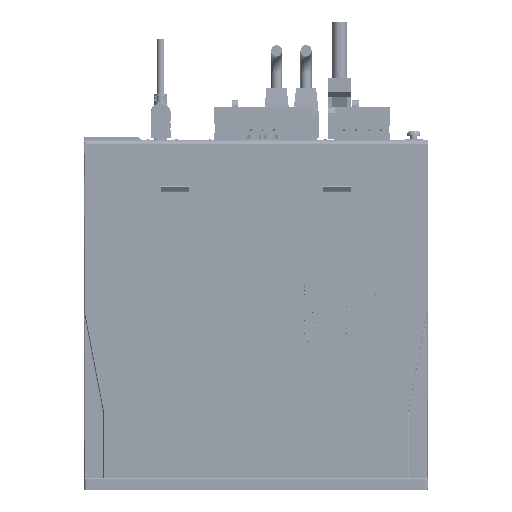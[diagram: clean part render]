
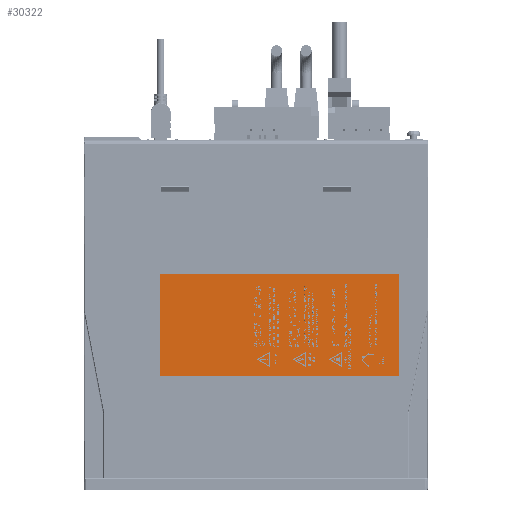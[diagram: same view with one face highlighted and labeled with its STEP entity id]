
A CAD part, left-side view. The second image highlights one B-rep face of the part: STEP entity #30322.
In plain terms, the highlighted planar face has unit normal (-1, 0, 0).
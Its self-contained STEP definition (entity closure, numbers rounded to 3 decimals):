
#30322=ADVANCED_FACE('',(#55343),#414931,.T.);
#55343=FACE_OUTER_BOUND('',#82129,.T.);
#82129=EDGE_LOOP('',(#211232,#211233,#211234,#211235,#211236,#211237));
#211232=ORIENTED_EDGE('',*,*,#276751,.F.);
#211233=ORIENTED_EDGE('',*,*,#278150,.T.);
#211234=ORIENTED_EDGE('',*,*,#278151,.F.);
#211235=ORIENTED_EDGE('',*,*,#278152,.F.);
#211236=ORIENTED_EDGE('',*,*,#276746,.F.);
#211237=ORIENTED_EDGE('',*,*,#276745,.T.);
#276745=EDGE_CURVE('',#390875,#390876,#283606,.T.);
#276746=EDGE_CURVE('',#390875,#390877,#346379,.T.);
#276751=EDGE_CURVE('',#390880,#390876,#346384,.T.);
#278150=EDGE_CURVE('',#390880,#390879,#283755,.T.);
#278151=EDGE_CURVE('',#390878,#390879,#347634,.T.);
#278152=EDGE_CURVE('',#390877,#390878,#347635,.T.);
#283606=TRIMMED_CURVE($,#287532,(#850865),(#850866),.T.,.CARTESIAN.);
#283755=TRIMMED_CURVE($,#287681,(#854157),(#854158),.T.,.CARTESIAN.);
#287532=CIRCLE('',#440846,0.2);
#287681=CIRCLE('',#440995,0.2);
#346379=B_SPLINE_CURVE_WITH_KNOTS('',1,(#850867,#850868),.UNSPECIFIED.,
 .F.,.F.,(2,2),(0.,128.8),.UNSPECIFIED.);
#346384=B_SPLINE_CURVE_WITH_KNOTS('',1,(#850877,#850878),.UNSPECIFIED.,
 .F.,.F.,(2,2),(0.,54.6),.UNSPECIFIED.);
#347634=B_SPLINE_CURVE_WITH_KNOTS('',1,(#854159,#854160),.UNSPECIFIED.,
 .F.,.F.,(2,2),(-128.8,0.),.UNSPECIFIED.);
#347635=B_SPLINE_CURVE_WITH_KNOTS('',1,(#854161,#854162),.UNSPECIFIED.,
 .F.,.F.,(2,2),(-55.,0.),.UNSPECIFIED.);
#390875=VERTEX_POINT('',#841130);
#390876=VERTEX_POINT('',#841131);
#390877=VERTEX_POINT('',#841132);
#390878=VERTEX_POINT('',#841133);
#390879=VERTEX_POINT('',#841134);
#390880=VERTEX_POINT('',#841135);
#414931=PLANE('',#440113);
#440113=AXIS2_PLACEMENT_3D('',#836502,#469008,$);
#440846=AXIS2_PLACEMENT_3D($,#850864,#470162,#470163);
#440995=AXIS2_PLACEMENT_3D($,#854156,#470460,#470461);
#469008=DIRECTION('',(-1.,0.,0.));
#470162=DIRECTION('',(-1.,0.,0.));
#470163=DIRECTION('',(0.,0.,1.));
#470460=DIRECTION('',(-1.,0.,0.));
#470461=DIRECTION('',(0.,1.,0.));
#836502=CARTESIAN_POINT('',(35.705,-261.249,-129.841));
#841130=CARTESIAN_POINT('',(35.705,-274.409,-69.281));
#841131=CARTESIAN_POINT('',(35.705,-274.209,-69.481));
#841132=CARTESIAN_POINT('',(35.705,-403.209,-69.281));
#841133=CARTESIAN_POINT('',(35.705,-403.209,-124.281));
#841134=CARTESIAN_POINT('',(35.705,-274.409,-124.281));
#841135=CARTESIAN_POINT('',(35.705,-274.209,-124.081));
#850864=CARTESIAN_POINT('',(35.705,-274.409,-69.481));
#850865=CARTESIAN_POINT('',(35.705,-274.409,-69.281));
#850866=CARTESIAN_POINT('',(35.705,-274.209,-69.481));
#850867=CARTESIAN_POINT('',(35.705,-274.409,-69.281));
#850868=CARTESIAN_POINT('',(35.705,-403.209,-69.281));
#850877=CARTESIAN_POINT('',(35.705,-274.209,-124.081));
#850878=CARTESIAN_POINT('',(35.705,-274.209,-69.481));
#854156=CARTESIAN_POINT('',(35.705,-274.409,-124.081));
#854157=CARTESIAN_POINT('',(35.705,-274.209,-124.081));
#854158=CARTESIAN_POINT('',(35.705,-274.409,-124.281));
#854159=CARTESIAN_POINT('',(35.705,-403.209,-124.281));
#854160=CARTESIAN_POINT('',(35.705,-274.409,-124.281));
#854161=CARTESIAN_POINT('',(35.705,-403.209,-69.281));
#854162=CARTESIAN_POINT('',(35.705,-403.209,-124.281));
